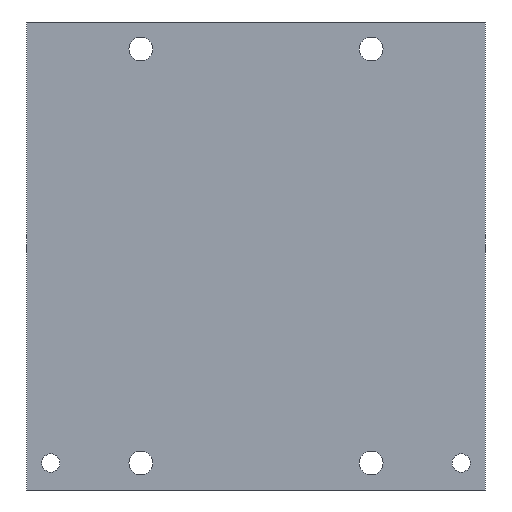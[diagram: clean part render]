
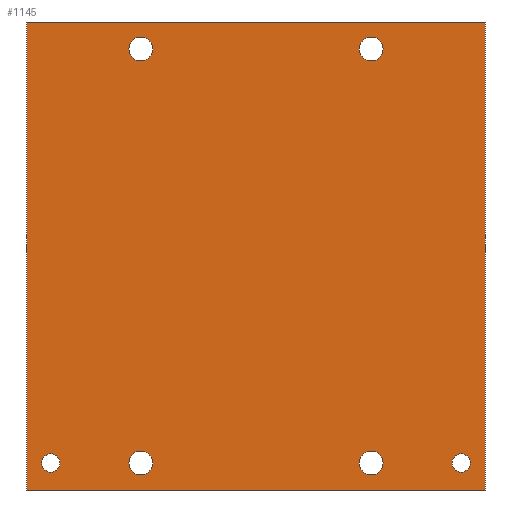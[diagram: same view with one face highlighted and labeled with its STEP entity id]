
A CAD part, front view. The second image highlights one B-rep face of the part: STEP entity #1145.
In plain terms, the highlighted planar face has unit normal (0, -1, 0).
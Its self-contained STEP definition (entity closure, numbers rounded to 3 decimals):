
#13=DIRECTION('',(0.,0.,1.));
#14=VECTOR('',#13,130.);
#15=CARTESIAN_POINT('',(63.65,0.,-65.));
#16=LINE('',#15,#14);
#17=DIRECTION('',(-1.,0.,0.));
#18=VECTOR('',#17,127.3);
#19=CARTESIAN_POINT('',(63.65,0.,65.));
#20=LINE('',#19,#18);
#21=DIRECTION('',(-1.,0.,0.));
#22=VECTOR('',#21,127.3);
#23=CARTESIAN_POINT('',(63.65,0.,-65.));
#24=LINE('',#23,#22);
#25=CARTESIAN_POINT('',(-32.,0.,-57.5));
#26=DIRECTION('',(0.,1.,0.));
#27=DIRECTION('',(1.,0.,0.));
#28=AXIS2_PLACEMENT_3D('',#25,#26,#27);
#30=CARTESIAN_POINT('',(-32.,0.,-57.5));
#31=DIRECTION('',(0.,1.,0.));
#32=DIRECTION('',(-1.,0.,0.));
#33=AXIS2_PLACEMENT_3D('',#30,#31,#32);
#35=CARTESIAN_POINT('',(32.,0.,-57.5));
#36=DIRECTION('',(0.,1.,0.));
#37=DIRECTION('',(1.,0.,0.));
#38=AXIS2_PLACEMENT_3D('',#35,#36,#37);
#40=CARTESIAN_POINT('',(32.,0.,-57.5));
#41=DIRECTION('',(0.,1.,0.));
#42=DIRECTION('',(-1.,0.,0.));
#43=AXIS2_PLACEMENT_3D('',#40,#41,#42);
#45=CARTESIAN_POINT('',(-32.,0.,57.5));
#46=DIRECTION('',(0.,1.,0.));
#47=DIRECTION('',(1.,0.,0.));
#48=AXIS2_PLACEMENT_3D('',#45,#46,#47);
#50=CARTESIAN_POINT('',(-32.,0.,57.5));
#51=DIRECTION('',(0.,1.,0.));
#52=DIRECTION('',(-1.,0.,0.));
#53=AXIS2_PLACEMENT_3D('',#50,#51,#52);
#55=CARTESIAN_POINT('',(32.,0.,57.5));
#56=DIRECTION('',(0.,1.,0.));
#57=DIRECTION('',(1.,0.,0.));
#58=AXIS2_PLACEMENT_3D('',#55,#56,#57);
#60=CARTESIAN_POINT('',(32.,0.,57.5));
#61=DIRECTION('',(0.,1.,0.));
#62=DIRECTION('',(-1.,0.,0.));
#63=AXIS2_PLACEMENT_3D('',#60,#61,#62);
#65=CARTESIAN_POINT('',(-57.,0.,-57.5));
#66=DIRECTION('',(0.,-1.,0.));
#67=DIRECTION('',(1.,0.,0.));
#68=AXIS2_PLACEMENT_3D('',#65,#66,#67);
#70=CARTESIAN_POINT('',(-57.,0.,-57.5));
#71=DIRECTION('',(0.,-1.,0.));
#72=DIRECTION('',(-1.,0.,0.));
#73=AXIS2_PLACEMENT_3D('',#70,#71,#72);
#75=CARTESIAN_POINT('',(57.,0.,-57.5));
#76=DIRECTION('',(0.,-1.,0.));
#77=DIRECTION('',(1.,0.,0.));
#78=AXIS2_PLACEMENT_3D('',#75,#76,#77);
#80=CARTESIAN_POINT('',(57.,0.,-57.5));
#81=DIRECTION('',(0.,-1.,0.));
#82=DIRECTION('',(-1.,0.,0.));
#83=AXIS2_PLACEMENT_3D('',#80,#81,#82);
#317=DIRECTION('',(0.,0.,1.));
#318=VECTOR('',#317,130.);
#319=CARTESIAN_POINT('',(-63.65,0.,-65.));
#320=LINE('',#319,#318);
#809=CARTESIAN_POINT('',(63.65,0.,65.));
#811=VERTEX_POINT('',#809);
#815=CARTESIAN_POINT('',(63.65,0.,-65.));
#816=VERTEX_POINT('',#815);
#817=CARTESIAN_POINT('',(-63.65,0.,65.));
#819=VERTEX_POINT('',#817);
#823=CARTESIAN_POINT('',(-63.65,0.,-65.));
#824=VERTEX_POINT('',#823);
#957=CARTESIAN_POINT('',(-54.445,0.,-57.5));
#958=CARTESIAN_POINT('',(-59.555,0.,-57.5));
#959=VERTEX_POINT('',#957);
#960=VERTEX_POINT('',#958);
#965=CARTESIAN_POINT('',(59.555,0.,-57.5));
#966=CARTESIAN_POINT('',(54.445,0.,-57.5));
#967=VERTEX_POINT('',#965);
#968=VERTEX_POINT('',#966);
#981=CARTESIAN_POINT('',(-28.7,0.,-57.5));
#982=CARTESIAN_POINT('',(-35.3,0.,-57.5));
#983=VERTEX_POINT('',#981);
#984=VERTEX_POINT('',#982);
#997=CARTESIAN_POINT('',(35.3,0.,-57.5));
#998=CARTESIAN_POINT('',(28.7,0.,-57.5));
#999=VERTEX_POINT('',#997);
#1000=VERTEX_POINT('',#998);
#1013=CARTESIAN_POINT('',(-28.7,0.,57.5));
#1014=CARTESIAN_POINT('',(-35.3,0.,57.5));
#1015=VERTEX_POINT('',#1013);
#1016=VERTEX_POINT('',#1014);
#1029=CARTESIAN_POINT('',(35.3,0.,57.5));
#1030=CARTESIAN_POINT('',(28.7,0.,57.5));
#1031=VERTEX_POINT('',#1029);
#1032=VERTEX_POINT('',#1030);
#1096=CARTESIAN_POINT('',(63.65,0.,-65.));
#1097=DIRECTION('',(0.,-1.,0.));
#1098=DIRECTION('',(0.,0.,1.));
#1099=AXIS2_PLACEMENT_3D('',#1096,#1097,#1098);
#1100=PLANE('',#1099);
#1101=ORIENTED_EDGE('',*,*,#1076,.F.);
#1103=ORIENTED_EDGE('',*,*,#1102,.T.);
#1105=ORIENTED_EDGE('',*,*,#1104,.T.);
#1106=ORIENTED_EDGE('',*,*,#1087,.F.);
#1107=EDGE_LOOP('',(#1101,#1103,#1105,#1106));
#1108=FACE_OUTER_BOUND('',#1107,.F.);
#1110=ORIENTED_EDGE('',*,*,#1109,.F.);
#1112=ORIENTED_EDGE('',*,*,#1111,.F.);
#1113=EDGE_LOOP('',(#1110,#1112));
#1114=FACE_BOUND('',#1113,.F.);
#1116=ORIENTED_EDGE('',*,*,#1115,.F.);
#1118=ORIENTED_EDGE('',*,*,#1117,.F.);
#1119=EDGE_LOOP('',(#1116,#1118));
#1120=FACE_BOUND('',#1119,.F.);
#1122=ORIENTED_EDGE('',*,*,#1121,.F.);
#1124=ORIENTED_EDGE('',*,*,#1123,.F.);
#1125=EDGE_LOOP('',(#1122,#1124));
#1126=FACE_BOUND('',#1125,.F.);
#1128=ORIENTED_EDGE('',*,*,#1127,.F.);
#1130=ORIENTED_EDGE('',*,*,#1129,.F.);
#1131=EDGE_LOOP('',(#1128,#1130));
#1132=FACE_BOUND('',#1131,.F.);
#1134=ORIENTED_EDGE('',*,*,#1133,.T.);
#1136=ORIENTED_EDGE('',*,*,#1135,.T.);
#1137=EDGE_LOOP('',(#1134,#1136));
#1138=FACE_BOUND('',#1137,.F.);
#1140=ORIENTED_EDGE('',*,*,#1139,.T.);
#1142=ORIENTED_EDGE('',*,*,#1141,.T.);
#1143=EDGE_LOOP('',(#1140,#1142));
#1144=FACE_BOUND('',#1143,.F.);
#1145=ADVANCED_FACE('',(#1108,#1114,#1120,#1126,#1132,#1138,#1144),#1100,.T.);
#29=CIRCLE('',#28,3.3);
#34=CIRCLE('',#33,3.3);
#39=CIRCLE('',#38,3.3);
#44=CIRCLE('',#43,3.3);
#49=CIRCLE('',#48,3.3);
#54=CIRCLE('',#53,3.3);
#59=CIRCLE('',#58,3.3);
#64=CIRCLE('',#63,3.3);
#69=CIRCLE('',#68,2.555);
#74=CIRCLE('',#73,2.555);
#79=CIRCLE('',#78,2.555);
#84=CIRCLE('',#83,2.555);
#1076=EDGE_CURVE('',#816,#811,#16,.T.);
#1087=EDGE_CURVE('',#811,#819,#20,.T.);
#1102=EDGE_CURVE('',#816,#824,#24,.T.);
#1104=EDGE_CURVE('',#824,#819,#320,.T.);
#1109=EDGE_CURVE('',#983,#984,#29,.T.);
#1111=EDGE_CURVE('',#984,#983,#34,.T.);
#1115=EDGE_CURVE('',#999,#1000,#39,.T.);
#1117=EDGE_CURVE('',#1000,#999,#44,.T.);
#1121=EDGE_CURVE('',#1015,#1016,#49,.T.);
#1123=EDGE_CURVE('',#1016,#1015,#54,.T.);
#1127=EDGE_CURVE('',#1031,#1032,#59,.T.);
#1129=EDGE_CURVE('',#1032,#1031,#64,.T.);
#1133=EDGE_CURVE('',#959,#960,#69,.T.);
#1135=EDGE_CURVE('',#960,#959,#74,.T.);
#1139=EDGE_CURVE('',#967,#968,#79,.T.);
#1141=EDGE_CURVE('',#968,#967,#84,.T.);
